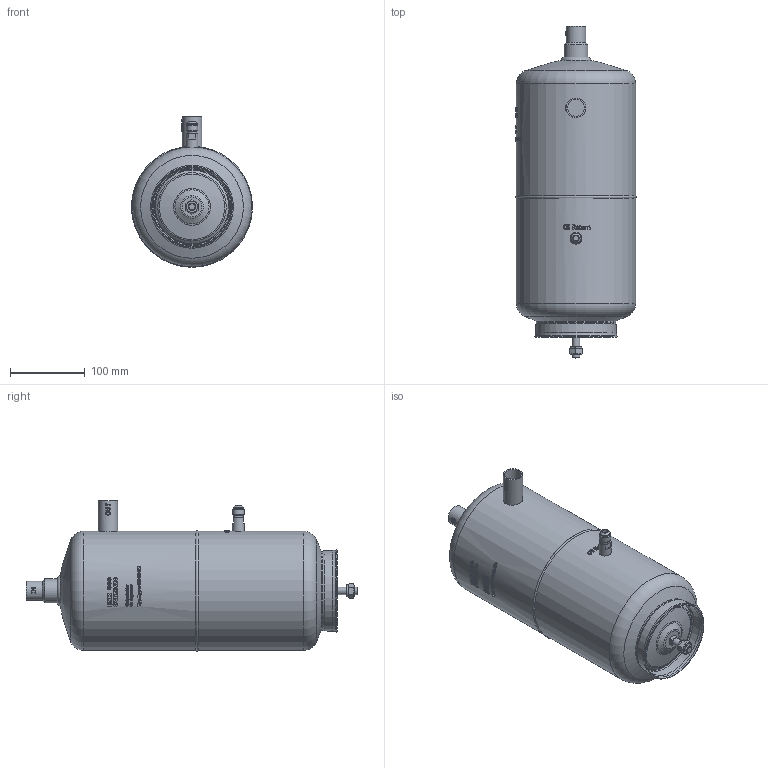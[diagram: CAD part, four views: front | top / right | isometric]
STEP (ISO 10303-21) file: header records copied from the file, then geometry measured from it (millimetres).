
FILE_DESCRIPTION(/* description */ (''),/* implementation_level */ '2;1');
FILE_NAME(/* name */ 'P:\OS\OS-22-CD\OS-22-CD.stp',/* time_stamp */ '2017-10-04T07:59:03+02:00',/* author */ ('neufeld'),/* organization */ (''),/* preprocessor_version */ 'ST-DEVELOPER v16.1',/* originating_system */ 'Autodesk Inventor 2016',/* authorisation */ '');
FILE_SCHEMA (('AUTOMOTIVE_DESIGN { 1 0 10303 214 3 1 1 }'));
Length unit declared in the file: millimetre
Products named in the file (2): OS-22-CD; OS-22-CD_1
Assembly tree (1 placements, depth 2):
  OS-22-CD_1
    OS-22-CD
Bounding box: 162.39 x 445.64 x 202.19 mm (x, y, z)
Volume: 6898237.9 mm3; surface area: 229881.2 mm2
Topology: 1 solids, 1 shells, 1171 faces, 3160 edges, 2095 vertices
Faces by surface type: plane 595, bspline 428, cylinder 114, cone 18, torus 13, sphere 3
Full cylindrical faces by diameter (mm): 7.2 x1, 10 x2, 12.9 x1, 13.5 x1, 15.7 x1, 16 x1, 22.4 x2, 26 x2, 32 x1, 160 x2
Entity records: 45155 total; most frequent: CARTESIAN_POINT 18247, ORIENTED_EDGE 6190, DIRECTION 4487, EDGE_CURVE 3095, VERTEX_POINT 2078, AXIS2_PLACEMENT_3D 1526, LINE 1435, VECTOR 1435
